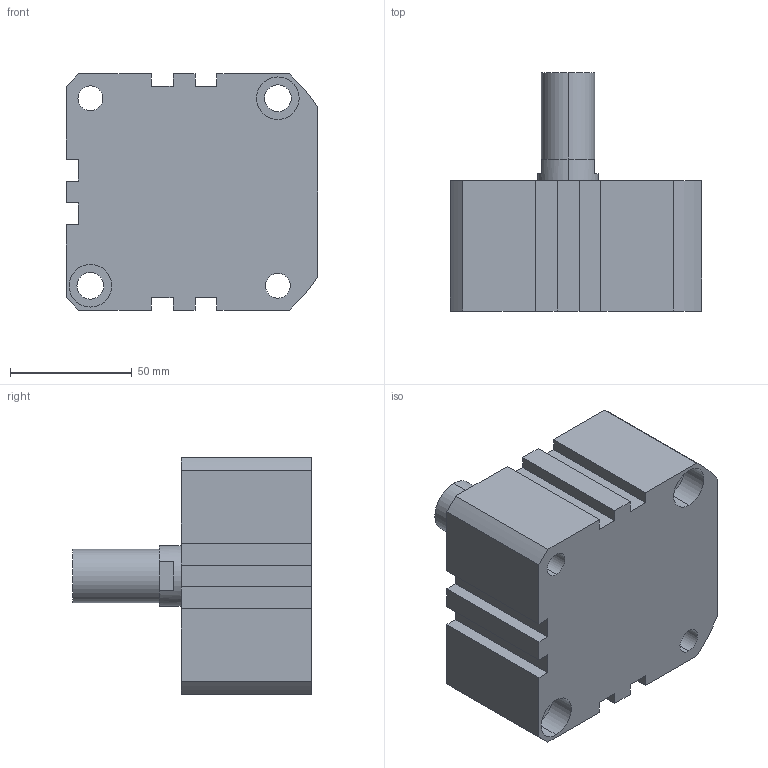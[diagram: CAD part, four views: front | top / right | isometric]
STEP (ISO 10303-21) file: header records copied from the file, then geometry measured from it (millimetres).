
FILE_DESCRIPTION (( 'STEP AP203' ), '1' );
FILE_NAME ('XC#M2-80-10.STEP', '2016-05-23T08:51:05', ( '' ), ( '' ), 'SwSTEP 2.0', 'SolidWorks 2014', '' );
FILE_SCHEMA (( 'CONFIG_CONTROL_DESIGN' ));
Length unit declared in the file: millimetre
Products named in the file (1): XC#M2-80-10
Bounding box: 103.5 x 98 x 97 mm (x, y, z)
Volume: 492573.2 mm3; surface area: 55826.1 mm2
Topology: 1 solids, 1 shells, 99 faces, 251 edges, 163 vertices
Faces by surface type: plane 48, cylinder 43, cone 8
Entity records: 3075 total; most frequent: DIRECTION 548, CARTESIAN_POINT 510, ORIENTED_EDGE 494, EDGE_CURVE 247, AXIS2_PLACEMENT_3D 201, VERTEX_POINT 163, VECTOR 146, LINE 146
